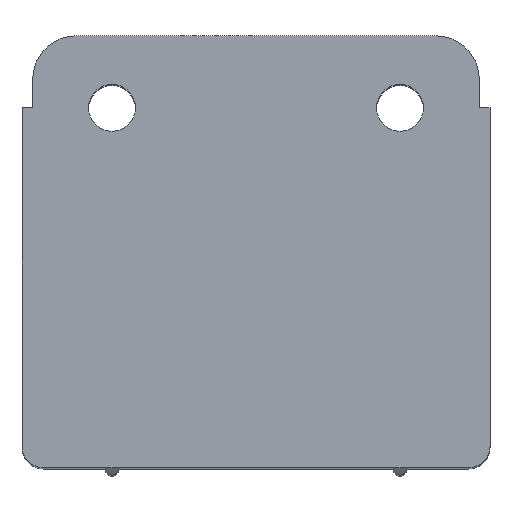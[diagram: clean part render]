
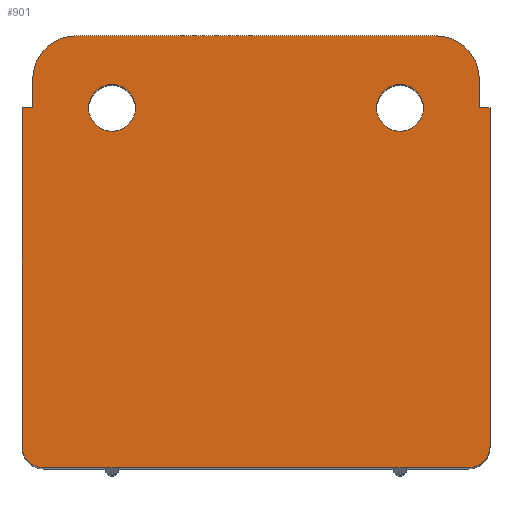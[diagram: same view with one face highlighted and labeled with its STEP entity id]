
A CAD part, top view. The second image highlights one B-rep face of the part: STEP entity #901.
In plain terms, the highlighted planar face has unit normal (0, 0, 1).
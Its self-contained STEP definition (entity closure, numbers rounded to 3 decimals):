
#35=FACE_BOUND('',#132,.T.);
#36=FACE_BOUND('',#133,.T.);
#43=CIRCLE('',#973,3.);
#44=CIRCLE('',#974,6.);
#45=CIRCLE('',#975,6.);
#46=CIRCLE('',#976,3.);
#47=CIRCLE('',#977,3.25);
#48=CIRCLE('',#978,3.25);
#79=FACE_OUTER_BOUND('',#131,.T.);
#131=EDGE_LOOP('',(#607,#608,#609,#610,#611,#612,#613,#614,#615,#616,#617,
#618,#619,#620,#621,#622));
#132=EDGE_LOOP('',(#623));
#133=EDGE_LOOP('',(#624));
#187=LINE('',#1331,#283);
#188=LINE('',#1336,#284);
#191=LINE('',#1348,#287);
#192=LINE('',#1350,#288);
#193=LINE('',#1354,#289);
#194=LINE('',#1356,#290);
#195=LINE('',#1358,#291);
#196=LINE('',#1362,#292);
#197=LINE('',#1366,#293);
#198=LINE('',#1368,#294);
#199=LINE('',#1370,#295);
#200=LINE('',#1373,#296);
#283=VECTOR('',#1058,10.);
#284=VECTOR('',#1063,10.);
#287=VECTOR('',#1076,10.);
#288=VECTOR('',#1077,10.);
#289=VECTOR('',#1080,10.);
#290=VECTOR('',#1081,10.);
#291=VECTOR('',#1082,10.);
#292=VECTOR('',#1085,10.);
#293=VECTOR('',#1088,10.);
#294=VECTOR('',#1089,10.);
#295=VECTOR('',#1090,10.);
#296=VECTOR('',#1093,10.);
#383=VERTEX_POINT('',#1328);
#384=VERTEX_POINT('',#1329);
#385=VERTEX_POINT('',#1333);
#386=VERTEX_POINT('',#1334);
#391=VERTEX_POINT('',#1349);
#392=VERTEX_POINT('',#1351);
#393=VERTEX_POINT('',#1353);
#394=VERTEX_POINT('',#1355);
#395=VERTEX_POINT('',#1357);
#396=VERTEX_POINT('',#1359);
#397=VERTEX_POINT('',#1361);
#398=VERTEX_POINT('',#1363);
#399=VERTEX_POINT('',#1365);
#400=VERTEX_POINT('',#1367);
#401=VERTEX_POINT('',#1369);
#402=VERTEX_POINT('',#1371);
#403=VERTEX_POINT('',#1374);
#404=VERTEX_POINT('',#1376);
#468=EDGE_CURVE('',#384,#383,#187,.T.);
#470=EDGE_CURVE('',#386,#385,#188,.T.);
#475=EDGE_CURVE('',#385,#384,#191,.T.);
#476=EDGE_CURVE('',#383,#391,#192,.T.);
#477=EDGE_CURVE('',#392,#391,#43,.T.);
#478=EDGE_CURVE('',#392,#393,#193,.T.);
#479=EDGE_CURVE('',#393,#394,#194,.T.);
#480=EDGE_CURVE('',#394,#395,#195,.T.);
#481=EDGE_CURVE('',#396,#395,#44,.T.);
#482=EDGE_CURVE('',#397,#396,#196,.T.);
#483=EDGE_CURVE('',#398,#397,#45,.T.);
#484=EDGE_CURVE('',#399,#398,#197,.T.);
#485=EDGE_CURVE('',#399,#400,#198,.T.);
#486=EDGE_CURVE('',#400,#401,#199,.T.);
#487=EDGE_CURVE('',#402,#401,#46,.T.);
#488=EDGE_CURVE('',#402,#386,#200,.T.);
#489=EDGE_CURVE('',#403,#403,#47,.T.);
#490=EDGE_CURVE('',#404,#404,#48,.T.);
#607=ORIENTED_EDGE('',*,*,#470,.T.);
#608=ORIENTED_EDGE('',*,*,#475,.T.);
#609=ORIENTED_EDGE('',*,*,#468,.T.);
#610=ORIENTED_EDGE('',*,*,#476,.T.);
#611=ORIENTED_EDGE('',*,*,#477,.F.);
#612=ORIENTED_EDGE('',*,*,#478,.T.);
#613=ORIENTED_EDGE('',*,*,#479,.T.);
#614=ORIENTED_EDGE('',*,*,#480,.T.);
#615=ORIENTED_EDGE('',*,*,#481,.F.);
#616=ORIENTED_EDGE('',*,*,#482,.F.);
#617=ORIENTED_EDGE('',*,*,#483,.F.);
#618=ORIENTED_EDGE('',*,*,#484,.F.);
#619=ORIENTED_EDGE('',*,*,#485,.T.);
#620=ORIENTED_EDGE('',*,*,#486,.T.);
#621=ORIENTED_EDGE('',*,*,#487,.F.);
#622=ORIENTED_EDGE('',*,*,#488,.T.);
#623=ORIENTED_EDGE('',*,*,#489,.T.);
#624=ORIENTED_EDGE('',*,*,#490,.T.);
#867=PLANE('',#972);
#901=ADVANCED_FACE('',(#79,#35,#36),#867,.T.);
#972=AXIS2_PLACEMENT_3D('',#1347,#1074,#1075);
#973=AXIS2_PLACEMENT_3D('',#1352,#1078,#1079);
#974=AXIS2_PLACEMENT_3D('',#1360,#1083,#1084);
#975=AXIS2_PLACEMENT_3D('',#1364,#1086,#1087);
#976=AXIS2_PLACEMENT_3D('',#1372,#1091,#1092);
#977=AXIS2_PLACEMENT_3D('',#1375,#1094,#1095);
#978=AXIS2_PLACEMENT_3D('',#1377,#1096,#1097);
#1058=DIRECTION('',(1.,0.,0.));
#1063=DIRECTION('',(1.,0.,0.));
#1074=DIRECTION('center_axis',(0.,0.,1.));
#1075=DIRECTION('ref_axis',(1.,0.,0.));
#1076=DIRECTION('',(1.,0.,0.));
#1077=DIRECTION('',(1.,0.,0.));
#1078=DIRECTION('center_axis',(0.,0.,-1.));
#1079=DIRECTION('ref_axis',(0.707,-0.707,0.));
#1080=DIRECTION('',(0.,1.,0.));
#1081=DIRECTION('',(-1.,0.,0.));
#1082=DIRECTION('',(0.,1.,0.));
#1083=DIRECTION('center_axis',(0.,0.,-1.));
#1084=DIRECTION('ref_axis',(0.707,0.707,0.));
#1085=DIRECTION('',(1.,0.,0.));
#1086=DIRECTION('center_axis',(0.,0.,-1.));
#1087=DIRECTION('ref_axis',(-0.707,0.707,0.));
#1088=DIRECTION('',(0.,1.,0.));
#1089=DIRECTION('',(-1.,0.,0.));
#1090=DIRECTION('',(0.,-1.,0.));
#1091=DIRECTION('center_axis',(0.,0.,-1.));
#1092=DIRECTION('ref_axis',(-0.707,-0.707,0.));
#1093=DIRECTION('',(1.,0.,0.));
#1094=DIRECTION('center_axis',(0.,0.,-1.));
#1095=DIRECTION('ref_axis',(1.,0.,0.));
#1096=DIRECTION('center_axis',(0.,0.,-1.));
#1097=DIRECTION('ref_axis',(1.,0.,0.));
#1328=CARTESIAN_POINT('',(21.,0.,96.));
#1329=CARTESIAN_POINT('',(19.,0.,96.));
#1331=CARTESIAN_POINT('',(0.,0.,96.));
#1333=CARTESIAN_POINT('',(-19.,0.,96.));
#1334=CARTESIAN_POINT('',(-21.,0.,96.));
#1336=CARTESIAN_POINT('',(0.,0.,96.));
#1347=CARTESIAN_POINT('Origin',(0.,24.5,96.));
#1348=CARTESIAN_POINT('',(0.,0.,96.));
#1349=CARTESIAN_POINT('',(29.5,0.,96.));
#1350=CARTESIAN_POINT('',(0.,0.,96.));
#1351=CARTESIAN_POINT('',(32.5,3.,96.));
#1352=CARTESIAN_POINT('Origin',(29.5,3.,96.));
#1353=CARTESIAN_POINT('',(32.5,50.,96.));
#1354=CARTESIAN_POINT('',(32.5,0.,96.));
#1355=CARTESIAN_POINT('',(31.,50.,96.));
#1356=CARTESIAN_POINT('',(32.5,50.,96.));
#1357=CARTESIAN_POINT('',(31.,54.,96.));
#1358=CARTESIAN_POINT('',(31.,1.5,96.));
#1359=CARTESIAN_POINT('',(25.,60.,96.));
#1360=CARTESIAN_POINT('Origin',(25.,54.,96.));
#1361=CARTESIAN_POINT('',(-25.,60.,96.));
#1362=CARTESIAN_POINT('',(31.,60.,96.));
#1363=CARTESIAN_POINT('',(-31.,54.,96.));
#1364=CARTESIAN_POINT('Origin',(-25.,54.,96.));
#1365=CARTESIAN_POINT('',(-31.,50.,96.));
#1366=CARTESIAN_POINT('',(-31.,1.5,96.));
#1367=CARTESIAN_POINT('',(-32.5,50.,96.));
#1368=CARTESIAN_POINT('',(-32.5,50.,96.));
#1369=CARTESIAN_POINT('',(-32.5,3.,96.));
#1370=CARTESIAN_POINT('',(-32.5,0.,96.));
#1371=CARTESIAN_POINT('',(-29.5,0.,96.));
#1372=CARTESIAN_POINT('Origin',(-29.5,3.,96.));
#1373=CARTESIAN_POINT('',(0.,0.,96.));
#1374=CARTESIAN_POINT('',(16.75,50.,96.));
#1375=CARTESIAN_POINT('Origin',(20.,50.,96.));
#1376=CARTESIAN_POINT('',(-23.25,50.,96.));
#1377=CARTESIAN_POINT('Origin',(-20.,50.,96.));
